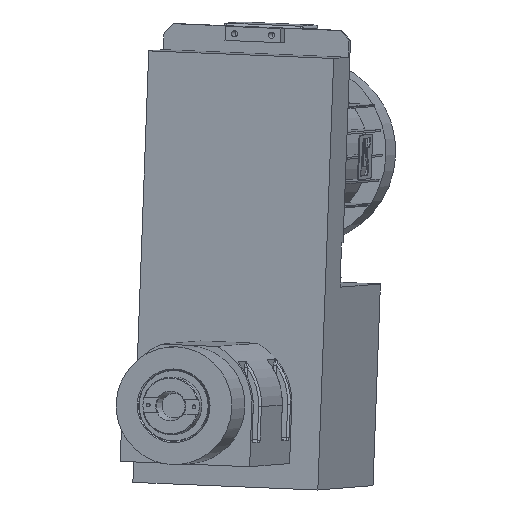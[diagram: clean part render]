
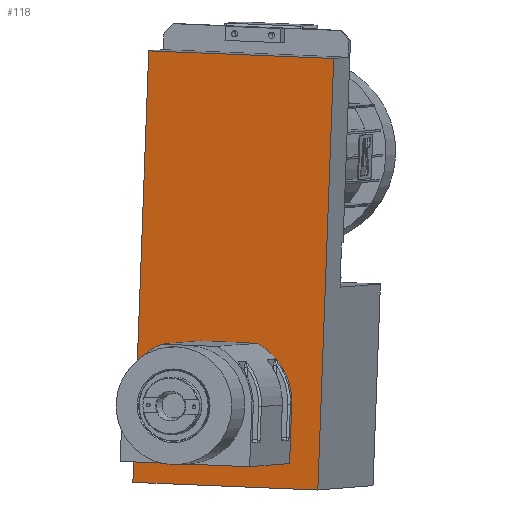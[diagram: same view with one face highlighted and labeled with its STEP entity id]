
A CAD part, front view. The second image highlights one B-rep face of the part: STEP entity #118.
In plain terms, the highlighted planar face has unit normal (-0.192, -0.981, -0.015).
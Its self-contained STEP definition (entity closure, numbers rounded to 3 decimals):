
#68=CARTESIAN_POINT('',(27.806,112.612,250.678));
#69=DIRECTION('',(0.192,0.981,0.015));
#70=DIRECTION('',(0.,-0.016,1.));
#71=AXIS2_PLACEMENT_3D('',#68,#69,#70);
#72=PLANE('',#71);
#73=CARTESIAN_POINT('',(134.281,88.226,475.421));
#74=VERTEX_POINT('',#73);
#75=CARTESIAN_POINT('',(-61.845,126.553,483.507));
#76=VERTEX_POINT('',#75);
#77=CARTESIAN_POINT('',(134.281,88.226,475.421));
#78=DIRECTION('',(-0.981,0.192,0.04));
#79=VECTOR('',#78,200.0);
#80=LINE('',#77,#79);
#81=EDGE_CURVE('',#74,#76,#80,.T.);
#82=ORIENTED_EDGE('',*,*,#81,.T.);
#83=CARTESIAN_POINT('',(-78.669,136.997,25.935));
#84=VERTEX_POINT('',#83);
#85=CARTESIAN_POINT('',(-61.845,126.553,483.507));
#86=DIRECTION('',(-0.037,0.023,-0.999));
#87=VECTOR('',#86,458.0);
#88=LINE('',#85,#87);
#89=EDGE_CURVE('',#76,#84,#88,.T.);
#90=ORIENTED_EDGE('',*,*,#89,.T.);
#91=CARTESIAN_POINT('',(117.458,98.671,17.849));
#92=VERTEX_POINT('',#91);
#93=CARTESIAN_POINT('',(-78.669,136.997,25.935));
#94=DIRECTION('',(0.981,-0.192,-0.04));
#95=VECTOR('',#94,200.);
#96=LINE('',#93,#95);
#97=EDGE_CURVE('',#84,#92,#96,.T.);
#98=ORIENTED_EDGE('',*,*,#97,.T.);
#99=CARTESIAN_POINT('',(117.458,98.671,17.849));
#100=DIRECTION('',(0.037,-0.023,0.999));
#101=VECTOR('',#100,458.);
#102=LINE('',#99,#101);
#103=EDGE_CURVE('',#92,#74,#102,.T.);
#104=ORIENTED_EDGE('',*,*,#103,.T.);
#105=EDGE_LOOP('',(#82,#90,#98,#104));
#106=FACE_OUTER_BOUND('',#105,.T.);
#107=CARTESIAN_POINT('',(80.79,104.709,91.578));
#108=VERTEX_POINT('',#107);
#109=CARTESIAN_POINT('',(22.7,115.782,111.808));
#110=DIRECTION('',(0.192,0.981,0.015));
#111=DIRECTION('',(-0.929,0.177,0.324));
#112=AXIS2_PLACEMENT_3D('',#109,#110,#111);
#113=CIRCLE('',#112,62.5);
#114=EDGE_CURVE('',#108,#108,#113,.T.);
#115=ORIENTED_EDGE('',*,*,#114,.T.);
#116=EDGE_LOOP('',(#115));
#117=FACE_BOUND('',#116,.T.);
#118=ADVANCED_FACE('',(#106,#117),#72,.F.);
